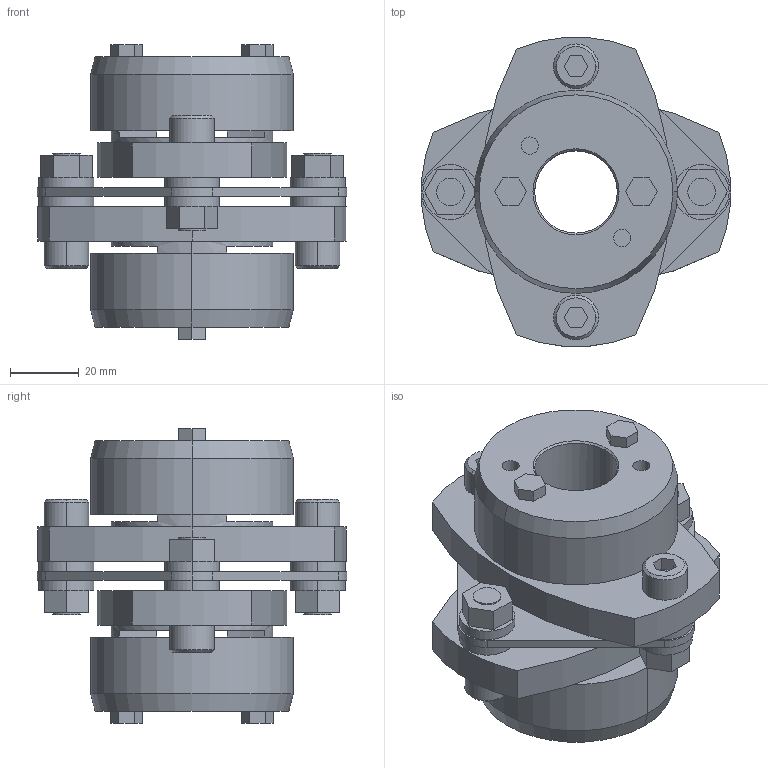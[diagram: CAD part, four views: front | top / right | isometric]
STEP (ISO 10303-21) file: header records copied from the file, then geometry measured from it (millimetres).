
FILE_DESCRIPTION((''),'2;1');
FILE_NAME('LCS-90T7-24×24.stp','2015-11-01T20:18:32',(''),(''),'AutoCAD STEP 2000i','AutoCAD 2000i',', , ');
FILE_SCHEMA(('CONFIG_CONTROL_DESIGN'));
Length unit declared in the file: millimetre
Products named in the file (9): LCS-90T7-25×25; 忣兜1; LC90T7-T025-1; LC90T7-T025; LC90T7-T019-1; LC90T7-T019; LC90-B019-1; LC90-B019; LCS90-ITA
Assembly tree (8 placements, depth 2):
  LCS-90T7-25×25
    忣兜1
    LC90T7-T025-1
    LC90T7-T025
    LC90T7-T019-1
    LC90T7-T019
    LC90-B019-1
    LC90-B019
    LCS90-ITA
Bounding box: 90 x 89.94 x 85.5 mm (x, y, z)
Volume: 198524.8 mm3; surface area: 51860.9 mm2
Topology: 1 solids, 1 shells, 218 faces, 532 edges, 348 vertices
Faces by surface type: plane 118, cylinder 80, cone 20
Entity records: 6675 total; most frequent: DIRECTION 1182, CARTESIAN_POINT 1107, ORIENTED_EDGE 1064, EDGE_CURVE 532, AXIS2_PLACEMENT_3D 423, VERTEX_POINT 348, VECTOR 336, LINE 336
